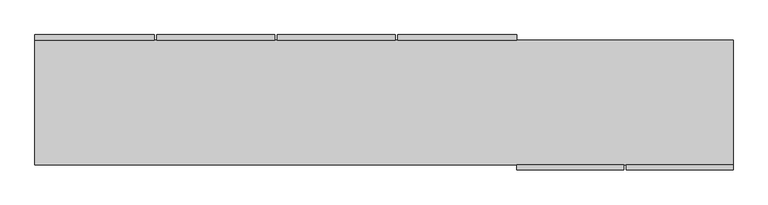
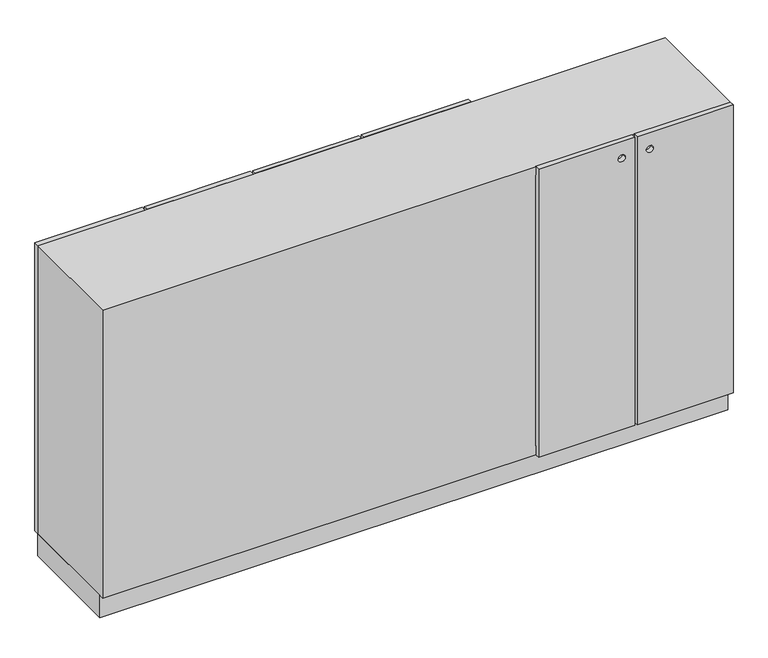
"""IFC4 building model written with IfcOpenShell, lengths in millimetres: furniture geometry, MUEBLE_EQ-12-13 : MUEBLE_EQ-12-13."""

import ifcopenshell
import ifcopenshell.guid

model = None  # the IFC model being written
_history = None  # IfcOwnerHistory: only IFC2X3 demands one
_inside = {}  # id of a spatial element -> (the spatial element, [elements in it])
_under = {}  # id of a project, library or spatial element -> (it, [spatial elements below it])
_declared = {}  # id of a project -> (the project, [libraries it declares])
_typed = {}  # id of a type object -> (the type object, [elements of that type])
_made_of = {}  # id of a material, layer set ... -> (it, [elements and type objects made of it])


def new_model(schema):
    """Start an empty IFC model of exactly this schema.

    Asked for "IFC4X3", IfcOpenShell would pick the latest addendum, in which some entities
    have other attributes; the version numbers below select the first issue.
    IFC2X3 requires an IfcOwnerHistory on every rooted entity: one is made here for all.
    """
    global model, _history
    if schema == "IFC4X3":
        model = ifcopenshell.file(schema_version=(4, 3, 0, 0))
    else:
        model = ifcopenshell.file(schema=schema)
    _inside.clear()
    _under.clear()
    _declared.clear()
    _typed.clear()
    _made_of.clear()
    _history = None
    if model.schema == "IFC2X3":
        org = make("IfcOrganization", Name="unknown")
        user = make(
            "IfcPersonAndOrganization",
            ThePerson=make("IfcPerson", FamilyName="unknown"),
            TheOrganization=org,
        )
        app = make(
            "IfcApplication",
            ApplicationDeveloper=org,
            Version="unknown",
            ApplicationFullName="unknown",
            ApplicationIdentifier="unknown",
        )
        _history = make(
            "IfcOwnerHistory",
            OwningUser=user,
            OwningApplication=app,
            ChangeAction="ADDED",
            CreationDate=0,
        )
    return model


def make(cls, **values):
    """One entity of the class cls with the attributes given. An attribute that is None is left unset."""
    return model.create_entity(
        cls, **{name: value for name, value in values.items() if value is not None}
    )


def rooted(cls, **values):
    """An entity with a GlobalId (a new one), such as an element, a storey or a relation."""
    return make(cls, GlobalId=ifcopenshell.guid.new(), OwnerHistory=_history, **values)


def si_unit(unit_type, name, prefix=None):
    """IfcSIUnit, for example si_unit("LENGTHUNIT", "METRE", prefix="MILLI")."""
    return make("IfcSIUnit", UnitType=unit_type, Prefix=prefix, Name=name)


def assignment(units):
    """IfcUnitAssignment: the units of a project."""
    return None if units is None else make("IfcUnitAssignment", Units=units)


def point(xyz):
    """IfcCartesianPoint."""
    return None if xyz is None else make("IfcCartesianPoint", Coordinates=xyz)


def direction(xyz):
    """IfcDirection."""
    return None if xyz is None else make("IfcDirection", DirectionRatios=xyz)


def frame(location, z_axis=None, x_axis=None):
    """IfcAxis2Placement3D, a coordinate frame: its origin and axes. An axis left out is left unset."""
    return make(
        "IfcAxis2Placement3D",
        Location=point(location),
        Axis=direction(z_axis),
        RefDirection=direction(x_axis),
    )


def frame_2d(location, x_axis=None):
    """IfcAxis2Placement2D, a coordinate frame in the plane: its origin and x axis."""
    return make(
        "IfcAxis2Placement2D", Location=point(location), RefDirection=direction(x_axis)
    )


def origin():
    """The frame at (0, 0, 0) with its axes left unset."""
    return frame((0.0, 0.0, 0.0))


def origin_with_axes():
    """The frame at (0, 0, 0) with the z axis (0, 0, 1) and the x axis (1, 0, 0) written out."""
    return frame((0.0, 0.0, 0.0), z_axis=(0.0, 0.0, 1.0), x_axis=(1.0, 0.0, 0.0))


def place(relative_to, where):
    """IfcLocalPlacement: puts the frame where relative to a parent placement (None: the world)."""
    return make(
        "IfcLocalPlacement", PlacementRelTo=relative_to, RelativePlacement=where
    )


def context(
    kind, dimensions, precision=None, world=None, true_north=None, identifier=None
):
    """IfcGeometricRepresentationContext, for example the 3D "Model" context."""
    return make(
        "IfcGeometricRepresentationContext",
        ContextIdentifier=identifier,
        ContextType=kind,
        CoordinateSpaceDimension=dimensions,
        Precision=precision,
        WorldCoordinateSystem=world,
        TrueNorth=true_north,
    )


def project(units=None, contexts=None):
    """IfcProject with its units and contexts."""
    return rooted(
        "IfcProject",
        Name="project",
        RepresentationContexts=contexts,
        UnitsInContext=assignment(units),
    )


def spatial(cls, under=None, at=None, **own):
    """A site, building, storey or space (cls), placed at a placement, below another one or the project."""
    s = rooted(cls, ObjectPlacement=at, **own)
    if under is not None:
        _under.setdefault(under.id(), (under, []))[1].append(s)
    return s


def polyline(points):
    """IfcPolyline through the points."""
    return make("IfcPolyline", Points=[point(p) for p in points])


def circle_curve(where, radius):
    """IfcCircle in the frame where."""
    return make("IfcCircle", Position=where, Radius=radius)


def trimmed(basis, trim1, trim2, sense, master):
    """IfcTrimmedCurve: the piece of a basis curve between two trims."""
    return make(
        "IfcTrimmedCurve",
        BasisCurve=basis,
        Trim1=trim1,
        Trim2=trim2,
        SenseAgreement=sense,
        MasterRepresentation=master,
    )


def segment(curve, same_sense, transition):
    """IfcCompositeCurveSegment."""
    return make(
        "IfcCompositeCurveSegment",
        Transition=transition,
        SameSense=same_sense,
        ParentCurve=curve,
    )


def composite_curve(segments, self_intersect=None):
    """IfcCompositeCurve: segments joined end to end."""
    return make("IfcCompositeCurve", Segments=segments, SelfIntersect=self_intersect)


def outline(outer, holes=None, kind="AREA"):
    """IfcArbitraryClosedProfileDef: a profile drawn as a closed curve; with holes, ...WithVoids."""
    if holes is None:
        return make("IfcArbitraryClosedProfileDef", ProfileType=kind, OuterCurve=outer)
    return make(
        "IfcArbitraryProfileDefWithVoids",
        ProfileType=kind,
        OuterCurve=outer,
        InnerCurves=holes,
    )


def extrude(swept, where, along, depth):
    """IfcExtrudedAreaSolid: the profile swept, set in the frame where, extruded along a direction by depth."""
    return make(
        "IfcExtrudedAreaSolid",
        SweptArea=swept,
        Position=where,
        ExtrudedDirection=direction(along),
        Depth=depth,
    )


def faces_of(points, faces, orient=None, outer=None):
    """IfcFace entities. A face is a list of loops; a loop is a list of indices into points, from 0.

    orient and outer hold one flag for each loop. By default every Orientation is true, the
    first loop of a face is its IfcFaceOuterBound and the others are IfcFaceBound.
    """
    made = []
    for i, loops in enumerate(faces):
        bounds = []
        for j, loop in enumerate(loops):
            is_outer = j == 0 if outer is None else outer[i][j]
            bounds.append(
                make(
                    "IfcFaceOuterBound" if is_outer else "IfcFaceBound",
                    Bound=make("IfcPolyLoop", Polygon=[points[k] for k in loop]),
                    Orientation=True if orient is None else orient[i][j],
                )
            )
        made.append(make("IfcFace", Bounds=bounds))
    return made


def faceted_brep(points, faces, orient=None, outer=None, voids=None):
    """IfcFacetedBrep: a solid bounded by flat faces; with voids (closed shells), ...WithVoids."""
    shared = [point(p) for p in points]
    hull = make("IfcClosedShell", CfsFaces=faces_of(shared, faces, orient, outer))
    if voids is None:
        return make("IfcFacetedBrep", Outer=hull)
    return make(
        "IfcFacetedBrepWithVoids",
        Outer=hull,
        Voids=[
            make(cls, CfsFaces=faces_of(shared, fs, o, b)) for cls, fs, o, b in voids
        ],
    )


def shape(context_of_items, identifier, shape_type, items):
    """IfcShapeRepresentation: the items that make up one representation, for example the "Body"."""
    return make(
        "IfcShapeRepresentation",
        ContextOfItems=context_of_items,
        RepresentationIdentifier=identifier,
        RepresentationType=shape_type,
        Items=items,
    )


def source(mapping_origin, context_of_items, identifier, shape_type, items):
    """IfcRepresentationMap: a shape defined once, which mapped items show again and again."""
    return make(
        "IfcRepresentationMap",
        MappingOrigin=mapping_origin,
        MappedRepresentation=shape(context_of_items, identifier, shape_type, items),
    )


def transform(
    local_origin,
    x_axis=None,
    y_axis=None,
    z_axis=None,
    scale=None,
    scale2=None,
    scale3=None,
    uniform=True,
):
    """IfcCartesianTransformationOperator3D, or its non-uniform kind. x_axis, y_axis, z_axis: its Axis1, 2, 3."""
    if uniform:
        return make(
            "IfcCartesianTransformationOperator3D",
            Axis1=direction(x_axis),
            Axis2=direction(y_axis),
            LocalOrigin=point(local_origin),
            Scale=scale,
            Axis3=direction(z_axis),
        )
    return make(
        "IfcCartesianTransformationOperator3DnonUniform",
        Axis1=direction(x_axis),
        Axis2=direction(y_axis),
        LocalOrigin=point(local_origin),
        Scale=scale,
        Axis3=direction(z_axis),
        Scale2=scale2,
        Scale3=scale3,
    )


def mapped(mapping_source, mapping_target):
    """IfcMappedItem: shows the shape of a source again, moved by a transform."""
    return make(
        "IfcMappedItem", MappingSource=mapping_source, MappingTarget=mapping_target
    )


def made_of(thing, what):
    """Note that an element or type object is made of a material, layer set ...; save() writes the relation."""
    if what is not None:
        _made_of.setdefault(what.id(), (what, []))[1].append(thing)
    return thing


def element(
    cls,
    number,
    at=None,
    inside=None,
    cuts=None,
    type_object=None,
    material=None,
    context=None,
    identifier="Body",
    shape_type=None,
    held_by="IfcProductDefinitionShape",
    body=None,
    shapes=None,
    **own,
):
    """One element of the class cls, such as IfcWall. Its Tag is "e" and its number.

    at: its placement. inside: the storey or other place that contains it. cuts: it is an
    opening in that element (IfcRelVoidsElement). A single representation is given by context,
    identifier, shape_type and body (its items); several are given by shapes. held_by: the class
    of the entity that holds the representations. save() writes the other relations.
    """
    e = rooted(cls, Tag="e%d" % number, ObjectPlacement=at, **own)
    if body is not None:
        shapes = [shape(context, identifier, shape_type, body)]
    if shapes is not None:
        e.Representation = make(held_by, Representations=shapes)
    if inside is not None:
        _inside.setdefault(inside.id(), (inside, []))[1].append(e)
    if cuts is not None:
        rooted(
            "IfcRelVoidsElement", RelatingBuildingElement=cuts, RelatedOpeningElement=e
        )
    if type_object is not None:
        _typed.setdefault(type_object.id(), (type_object, []))[1].append(e)
    return made_of(e, material)


def aggregate(whole, parts):
    """IfcRelAggregates: a whole, such as a stair, and the parts it consists of."""
    return rooted("IfcRelAggregates", RelatingObject=whole, RelatedObjects=parts)


def save(model, path):
    """Write the relations noted so far, then the file.

    IfcRelAggregates (storeys below a building ...), IfcRelContainedInSpatialStructure (elements
    in a storey), IfcRelDefinesByType, IfcRelAssociatesMaterial and IfcRelDeclares: one each for
    every whole, place, type object, material and project.
    """
    for whole, parts in _under.values():
        aggregate(whole, parts)
    for where, things in _inside.values():
        rooted(
            "IfcRelContainedInSpatialStructure",
            RelatedElements=things,
            RelatingStructure=where,
        )
    for kind, things in _typed.values():
        rooted("IfcRelDefinesByType", RelatedObjects=things, RelatingType=kind)
    for what, things in _made_of.values():
        rooted("IfcRelAssociatesMaterial", RelatedObjects=things, RelatingMaterial=what)
    for by, libraries in _declared.values():
        rooted("IfcRelDeclares", RelatingContext=by, RelatedDefinitions=libraries)
    model.write(path)


def furniture_01e2f433(model_context):
    return source(origin(), model_context, "Body", "SolidModel", [
        extrude(outline(polyline([(-880.2996736, 20.0), (-880.2996736, 480.0), (1799.7003264, 480.0), (1799.7003264, 20.0), (-880.2996736, 20.0)])), origin_with_axes(), (0.0, 0.0, 1.0), 100.0),
        extrude(outline(polyline([(1400.0, 1379.7003264), (1400.0, 969.7003264), (100.0, 969.7003264), (100.0, 1379.7003264), (1400.0, 1379.7003264)]), holes=[composite_curve([segment(trimmed(circle_curve(frame_2d((1325.0, 1324.7003264)), 15.0), [point((1325.0, 1309.7003264))], [point((1325.0, 1339.7003264))], True, "CARTESIAN"), True, "CONTINUOUS"), segment(trimmed(circle_curve(frame_2d((1325.0, 1324.7003264)), 15.0), [point((1325.0, 1339.7003264))], [point((1325.0, 1309.7003264))], True, "CARTESIAN"), True, "CONTINUOUS")], self_intersect=False)]), frame((0.0, -20.0, 0.0), z_axis=(0.0, 1.0, 0.0), x_axis=(0.0, 0.0, 1.0)), (0.0, 0.0, 1.0), 20.0),
        extrude(outline(polyline([(1400.0, 1389.7003264), (100.0, 1389.7003264), (100.0, 1799.7003264), (1400.0, 1799.7003264), (1400.0, 1389.7003264)]), holes=[composite_curve([segment(trimmed(circle_curve(frame_2d((1325.0, 1444.7003264)), 15.0), [point((1325.0, 1429.7003264))], [point((1325.0, 1459.7003264))], True, "CARTESIAN"), True, "CONTINUOUS"), segment(trimmed(circle_curve(frame_2d((1325.0, 1444.7003264)), 15.0), [point((1325.0, 1459.7003264))], [point((1325.0, 1429.7003264))], True, "CARTESIAN"), True, "CONTINUOUS")], self_intersect=False)]), frame((0.0, -20.0, 0.0), z_axis=(0.0, 1.0, 0.0), x_axis=(0.0, 0.0, 1.0)), (0.0, 0.0, 1.0), 20.0),
        extrude(outline(polyline([(1400.0, -422.7996736), (1400.0, -880.2996736), (100.0, -880.2996736), (100.0, -422.7996736), (1400.0, -422.7996736)]), holes=[composite_curve([segment(trimmed(circle_curve(frame_2d((1325.0, -477.7996736)), 15.0), [point((1325.0, -492.7996736))], [point((1325.0, -462.7996736))], True, "CARTESIAN"), True, "CONTINUOUS"), segment(trimmed(circle_curve(frame_2d((1325.0, -477.7996736)), 15.0), [point((1325.0, -462.7996736))], [point((1325.0, -492.7996736))], True, "CARTESIAN"), True, "CONTINUOUS")], self_intersect=False)]), frame((0.0, 480.0, 0.0), z_axis=(0.0, 1.0, 0.0), x_axis=(0.0, 0.0, 1.0)), (0.0, 0.0, 1.0), 20.0),
        extrude(outline(polyline([(1400.0, 39.7003264), (1400.0, -412.7996736), (100.0, -412.7996736), (100.0, 39.7003264), (1400.0, 39.7003264)]), holes=[composite_curve([segment(trimmed(circle_curve(frame_2d((1325.0, -357.7996736)), 15.0), [point((1325.0, -372.7996736))], [point((1325.0, -342.7996736))], True, "CARTESIAN"), True, "CONTINUOUS"), segment(trimmed(circle_curve(frame_2d((1325.0, -357.7996736)), 15.0), [point((1325.0, -342.7996736))], [point((1325.0, -372.7996736))], True, "CARTESIAN"), True, "CONTINUOUS")], self_intersect=False)]), frame((0.0, 480.0, 0.0), z_axis=(0.0, 1.0, 0.0), x_axis=(0.0, 0.0, 1.0)), (0.0, 0.0, 1.0), 20.0),
        extrude(outline(polyline([(1400.0, 502.2003264), (1400.0, 49.7003264), (100.0, 49.7003264), (100.0, 502.2003264), (1400.0, 502.2003264)]), holes=[composite_curve([segment(trimmed(circle_curve(frame_2d((1325.0, 447.2003264)), 15.0), [point((1325.0, 432.2003264))], [point((1325.0, 462.2003264))], True, "CARTESIAN"), True, "CONTINUOUS"), segment(trimmed(circle_curve(frame_2d((1325.0, 447.2003264)), 15.0), [point((1325.0, 462.2003264))], [point((1325.0, 432.2003264))], True, "CARTESIAN"), True, "CONTINUOUS")], self_intersect=False)]), frame((0.0, 480.0, 0.0), z_axis=(0.0, 1.0, 0.0), x_axis=(0.0, 0.0, 1.0)), (0.0, 0.0, 1.0), 20.0),
        extrude(outline(polyline([(1400.0, 969.7003264), (1400.0, 512.2003264), (100.0, 512.2003264), (100.0, 969.7003264), (1400.0, 969.7003264)]), holes=[composite_curve([segment(trimmed(circle_curve(frame_2d((1325.0, 567.2003264)), 15.0), [point((1325.0, 552.2003264))], [point((1325.0, 582.2003264))], True, "CARTESIAN"), True, "CONTINUOUS"), segment(trimmed(circle_curve(frame_2d((1325.0, 567.2003264)), 15.0), [point((1325.0, 582.2003264))], [point((1325.0, 552.2003264))], True, "CARTESIAN"), True, "CONTINUOUS")], self_intersect=False)]), frame((0.0, 480.0, 0.0), z_axis=(0.0, 1.0, 0.0), x_axis=(0.0, 0.0, 1.0)), (0.0, 0.0, 1.0), 20.0),
        faceted_brep([(1799.7003264, 0.0, 100.0), (-880.2996736, 0.0, 100.0), (-880.2996736, 480.0, 100.0), (1799.7003264, 480.0, 100.0), (1799.7003264, 0.0, 1400.0), (1799.7003264, 480.0, 1400.0), (-880.2996736, 480.0, 1400.0), (-840.2996736, 480.0, 140.0), (929.7003264, 480.0, 140.0), (929.7003264, 480.0, 1360.0), (-840.2996736, 480.0, 1360.0), (-880.2996736, 0.0, 1400.0), (969.7003264, 0.0, 1360.0), (1759.7003264, 0.0, 1360.0), (1759.7003264, 0.0, 140.0), (969.7003264, 0.0, 140.0), (969.7003264, 440.0, 1360.0), (969.7003264, 440.0, 140.0), (1759.7003264, 440.0, 140.0), (1759.7003264, 440.0, 1360.0), (-840.2996736, 40.0, 140.0), (-840.2996736, 40.0, 1360.0), (929.7003264, 40.0, 1360.0), (929.7003264, 40.0, 140.0)], [[[0, 1, 2, 3]], [[4, 0, 3, 5]], [[5, 3, 2, 6], [7, 8, 9, 10]], [[6, 2, 1, 11]], [[11, 1, 0, 4], [12, 13, 14, 15]], [[16, 12, 15, 17]], [[17, 15, 14, 18]], [[18, 14, 13, 19]], [[20, 7, 10, 21]], [[22, 9, 8, 23]], [[23, 8, 7, 20]], [[21, 22, 23, 20]], [[16, 17, 18, 19]], [[4, 5, 6, 11]], [[21, 10, 9, 22]], [[19, 13, 12, 16]]]),
    ])


if __name__ == "__main__":
    model = new_model("IFC4")
    model_context = context("Model", 3, world=origin())
    ifc_project = project(units=[si_unit("LENGTHUNIT", "METRE", prefix="MILLI")], contexts=[model_context])
    site = spatial("IfcSite", under=ifc_project)
    building = spatial("IfcBuilding", under=site)
    placement = place(None, origin())
    furniture_shape = furniture_01e2f433(model_context)
    element("IfcFurniture", 1, ObjectType="MUEBLE_EQ-12-13 : MUEBLE_EQ-12-13", at=placement, inside=building, context=model_context, shape_type="MappedRepresentation", body=[
        mapped(furniture_shape, transform((0.0, 0.0, 0.0), x_axis=(1.0, 0.0, 0.0), y_axis=(0.0, 1.0, 0.0), z_axis=(0.0, 0.0, 1.0))),
    ])
    save(model, "model.ifc")
